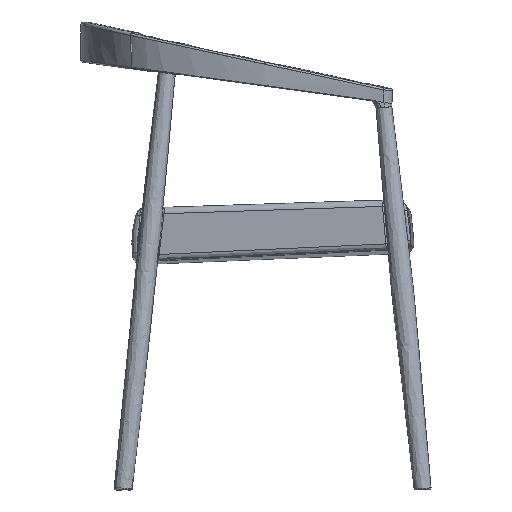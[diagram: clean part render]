
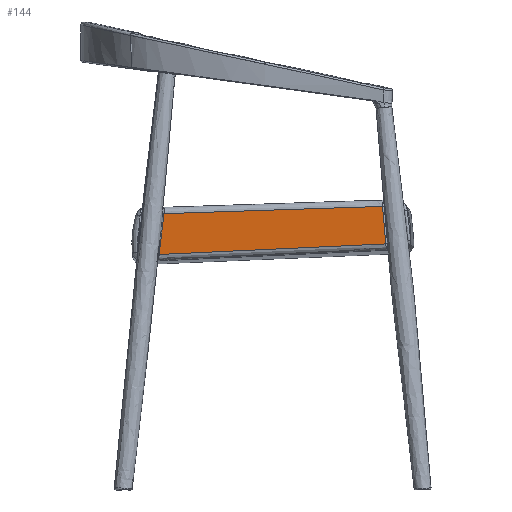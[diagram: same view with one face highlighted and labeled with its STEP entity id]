
A CAD part, left-side view. The second image highlights one B-rep face of the part: STEP entity #144.
In plain terms, the highlighted planar face has unit normal (-0.996, 0.089, 0).
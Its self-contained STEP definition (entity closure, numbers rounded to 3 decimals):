
#144=ADVANCED_FACE('',(#322),#2716,.T.);
#322=FACE_OUTER_BOUND('',#500,.T.);
#500=EDGE_LOOP('',(#1142,#1143,#1144,#1145));
#1142=ORIENTED_EDGE('',*,*,#1765,.F.);
#1143=ORIENTED_EDGE('',*,*,#1766,.F.);
#1144=ORIENTED_EDGE('',*,*,#1880,.F.);
#1145=ORIENTED_EDGE('',*,*,#1764,.F.);
#1764=EDGE_CURVE('',#2613,#2614,#2364,.T.);
#1765=EDGE_CURVE('',#2637,#2613,#2365,.T.);
#1766=EDGE_CURVE('',#2638,#2637,#2366,.T.);
#1880=EDGE_CURVE('',#2614,#2638,#2102,.T.);
#2102=(
BOUNDED_CURVE()
B_SPLINE_CURVE(3,(#26152,#26153,#26154,#26155),.UNSPECIFIED.,.F.,.F.)
B_SPLINE_CURVE_WITH_KNOTS((4,4),(-59.153,0.),.UNSPECIFIED.)
CURVE()
GEOMETRIC_REPRESENTATION_ITEM()
RATIONAL_B_SPLINE_CURVE((1.,1.,1.,1.))
REPRESENTATION_ITEM('')
);
#2364=B_SPLINE_CURVE_WITH_KNOTS('',3,(#24609,#24610,#24611,#24612),
 .UNSPECIFIED.,.F.,.F.,(4,4),(-0.364,-0.019),
 .UNSPECIFIED.);
#2365=B_SPLINE_CURVE_WITH_KNOTS('',3,(#24613,#24614,#24615,#24616),
 .UNSPECIFIED.,.F.,.F.,(4,4),(-0.065,0.),.UNSPECIFIED.);
#2366=B_SPLINE_CURVE_WITH_KNOTS('',3,(#24617,#24618,#24619,#24620),
 .UNSPECIFIED.,.F.,.F.,(4,4),(-0.386,-0.028),
 .UNSPECIFIED.);
#2613=VERTEX_POINT('',#24389);
#2614=VERTEX_POINT('',#24390);
#2637=VERTEX_POINT('',#24413);
#2638=VERTEX_POINT('',#24414);
#2716=PLANE('',#2937);
#2937=AXIS2_PLACEMENT_3D('',#21460,#2960,$);
#2960=DIRECTION('',(-0.996,0.089,0.));
#21460=CARTESIAN_POINT('',(-254.347,-514.377,362.513));
#24389=CARTESIAN_POINT('',(-220.115,-130.581,434.177));
#24390=CARTESIAN_POINT('',(-250.728,-473.801,445.533));
#24413=CARTESIAN_POINT('',(-219.421,-122.8,370.061));
#24414=CARTESIAN_POINT('',(-251.172,-478.778,386.591));
#24609=CARTESIAN_POINT('',(-220.115,-130.581,434.177));
#24610=CARTESIAN_POINT('',(-230.32,-244.989,437.929));
#24611=CARTESIAN_POINT('',(-240.524,-359.396,441.714));
#24612=CARTESIAN_POINT('',(-250.728,-473.801,445.533));
#24613=CARTESIAN_POINT('',(-219.421,-122.8,370.061));
#24614=CARTESIAN_POINT('',(-219.672,-125.614,391.406));
#24615=CARTESIAN_POINT('',(-219.902,-128.193,412.78));
#24616=CARTESIAN_POINT('',(-220.115,-130.581,434.177));
#24617=CARTESIAN_POINT('',(-251.172,-478.778,386.591));
#24618=CARTESIAN_POINT('',(-240.588,-360.12,381.045));
#24619=CARTESIAN_POINT('',(-230.005,-241.461,375.535));
#24620=CARTESIAN_POINT('',(-219.421,-122.8,370.061));
#26152=CARTESIAN_POINT('',(-250.728,-473.801,445.533));
#26153=CARTESIAN_POINT('',(-250.87,-475.394,425.88));
#26154=CARTESIAN_POINT('',(-251.018,-477.054,406.233));
#26155=CARTESIAN_POINT('',(-251.172,-478.778,386.591));
